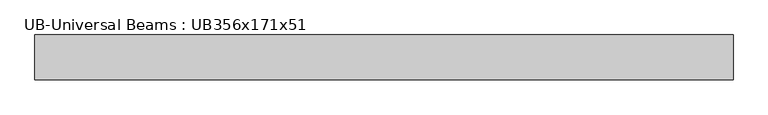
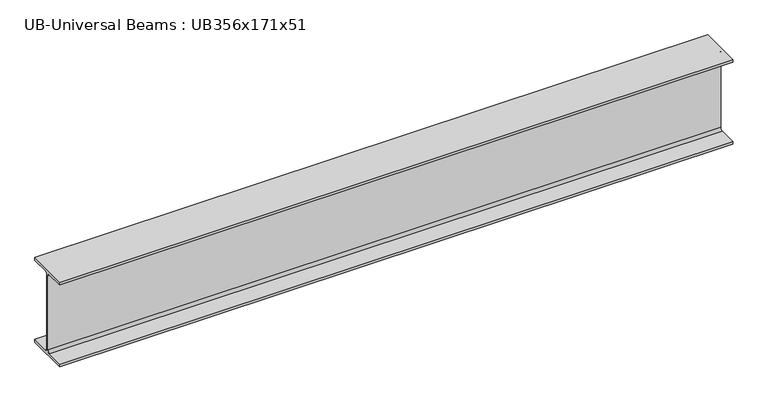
"""IFC4 building model written with IfcOpenShell, lengths in millimetres: beam geometry, UB-Universal Beams : UB356x171x51."""

from ifc_helpers import new_model, si_unit, point, frame, frame_2d, origin, place, context, project, spatial, polyline, circle_curve, trimmed, segment, composite_curve, outline, extrude, source, transform, mapped, element, save


def ub_universal_beams_ub356x171x51_1120833c(model_context):
    return source(origin(), model_context, "Body", "SweptSolid", [
        extrude(outline(composite_curve([segment(polyline([(85.75, -166.0), (85.75, -177.5), (-85.75, -177.5), (-85.75, -166.0), (-13.9, -166.0)]), True, "CONTINUOUS"), segment(trimmed(circle_curve(frame_2d((-13.9, -155.8)), 10.2), [point((-13.9, -166.0))], [point((-3.7, -155.8))], True, "CARTESIAN"), True, "CONTINUOUS"), segment(polyline([(-3.7, -155.8), (-3.7, 155.8)]), True, "CONTINUOUS"), segment(trimmed(circle_curve(frame_2d((-13.9, 155.8)), 10.2), [point((-3.7, 155.8))], [point((-13.9, 166.0))], True, "CARTESIAN"), True, "CONTINUOUS"), segment(polyline([(-13.9, 166.0), (-85.75, 166.0), (-85.75, 177.5), (85.75, 177.5), (85.75, 166.0), (13.9, 166.0)]), True, "CONTINUOUS"), segment(trimmed(circle_curve(frame_2d((13.9, 155.8)), 10.2), [point((13.9, 166.0))], [point((3.7, 155.8))], True, "CARTESIAN"), True, "CONTINUOUS"), segment(polyline([(3.7, 155.8), (3.7, -155.8)]), True, "CONTINUOUS"), segment(trimmed(circle_curve(frame_2d((13.9, -155.8)), 10.2), [point((3.7, -155.8))], [point((13.9, -166.0))], True, "CARTESIAN"), True, "CONTINUOUS"), segment(polyline([(13.9, -166.0), (85.75, -166.0)]), True, "CONTINUOUS")], self_intersect=False)), frame((-1333.8, 0.0, 0.0), z_axis=(1.0, 0.0, 0.0), x_axis=(0.0, 1.0, 0.0)), (0.0, 0.0, 1.0), 2667.6),
    ])


if __name__ == "__main__":
    model = new_model("IFC4")
    model_context = context("Model", 3, world=origin())
    ifc_project = project(units=[si_unit("LENGTHUNIT", "METRE", prefix="MILLI")], contexts=[model_context])
    site = spatial("IfcSite", under=ifc_project)
    building = spatial("IfcBuilding", under=site)
    placement = place(None, origin())
    ub_universal_beams_ub356x171x51_shape = ub_universal_beams_ub356x171x51_1120833c(model_context)
    element("IfcBeam", 1, ObjectType="UB-Universal Beams : UB356x171x51", at=placement, inside=building, context=model_context, shape_type="MappedRepresentation", body=[
        mapped(ub_universal_beams_ub356x171x51_shape, transform((0.0, 0.0, 0.0), x_axis=(1.0, 0.0, 0.0), y_axis=(0.0, 1.0, 0.0), z_axis=(0.0, 0.0, 1.0))),
    ])
    save(model, "model.ifc")
